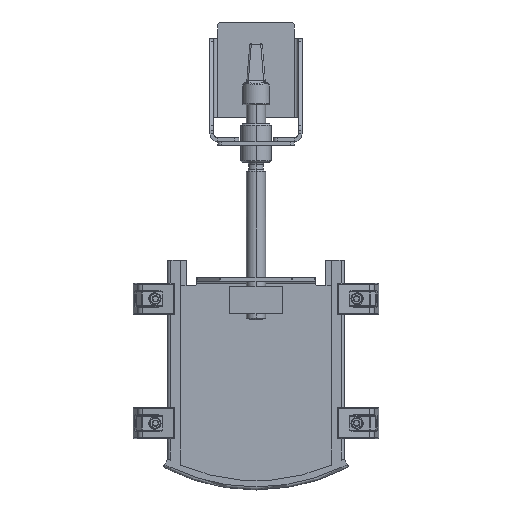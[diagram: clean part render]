
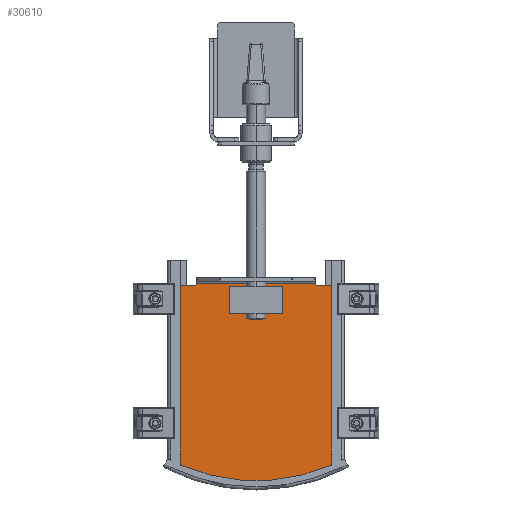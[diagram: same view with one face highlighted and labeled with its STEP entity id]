
A CAD part, top view. The second image highlights one B-rep face of the part: STEP entity #30610.
In plain terms, the highlighted planar face has unit normal (0, 0, 1).
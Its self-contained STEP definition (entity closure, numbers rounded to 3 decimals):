
#112 = ORIENTED_EDGE ( 'NONE', *, *, #6468, .T. ) ;
#483 = LINE ( 'NONE', #22665, #5878 ) ;
#844 = ORIENTED_EDGE ( 'NONE', *, *, #1501, .F. ) ;
#1001 = EDGE_CURVE ( 'NONE', #2835, #20377, #34820, .T. ) ;
#1099 = EDGE_CURVE ( 'NONE', #11364, #33017, #31900, .T. ) ;
#1501 = EDGE_CURVE ( 'NONE', #12025, #28074, #19289, .T. ) ;
#1896 = LINE ( 'NONE', #15713, #4245 ) ;
#2351 = LINE ( 'NONE', #34904, #7532 ) ;
#2835 = VERTEX_POINT ( 'NONE', #8739 ) ;
#2904 = AXIS2_PLACEMENT_3D ( 'NONE', #22931, #33643, #14575 ) ;
#4225 = ORIENTED_EDGE ( 'NONE', *, *, #22428, .T. ) ;
#4245 = VECTOR ( 'NONE', #24079, 1000. ) ;
#4362 = DIRECTION ( 'NONE',  ( 0., -1., 0. ) ) ;
#4998 = DIRECTION ( 'NONE',  ( 0., 1., 0. ) ) ;
#5878 = VECTOR ( 'NONE', #5925, 1000. ) ;
#5925 = DIRECTION ( 'NONE',  ( 0., -1., 0. ) ) ;
#6468 = EDGE_CURVE ( 'NONE', #15090, #2835, #34964, .T. ) ;
#7322 = VECTOR ( 'NONE', #22098, 1000. ) ;
#7354 = LINE ( 'NONE', #29538, #23577 ) ;
#7532 = VECTOR ( 'NONE', #4362, 1000. ) ;
#7668 = EDGE_LOOP ( 'NONE', ( #33738, #9750, #26670, #112, #35391, #33947, #22231, #4225 ) ) ;
#8142 = ORIENTED_EDGE ( 'NONE', *, *, #26661, .F. ) ;
#8687 = CARTESIAN_POINT ( 'NONE',  ( 79., 257., 33. ) ) ;
#8737 = EDGE_CURVE ( 'NONE', #33883, #11685, #23222, .T. ) ;
#8739 = CARTESIAN_POINT ( 'NONE',  ( 79., 255., 33. ) ) ;
#9750 = ORIENTED_EDGE ( 'NONE', *, *, #1099, .T. ) ;
#9753 = CARTESIAN_POINT ( 'NONE',  ( 0., 245., 33. ) ) ;
#10950 = CARTESIAN_POINT ( 'NONE',  ( -34., 217.5, 33. ) ) ;
#11364 = VERTEX_POINT ( 'NONE', #29894 ) ;
#11415 = EDGE_CURVE ( 'NONE', #33151, #12025, #7354, .T. ) ;
#11450 = CARTESIAN_POINT ( 'NONE',  ( -98.172, 255., 33. ) ) ;
#11461 = FACE_BOUND ( 'NONE', #29369, .T. ) ;
#11685 = VERTEX_POINT ( 'NONE', #30565 ) ;
#11889 = CARTESIAN_POINT ( 'NONE',  ( -98., 255., 33. ) ) ;
#11965 = CARTESIAN_POINT ( 'NONE',  ( 98., 255., 33. ) ) ;
#12025 = VERTEX_POINT ( 'NONE', #20499 ) ;
#12131 = DIRECTION ( 'NONE',  ( 0., 0., -1. ) ) ;
#12169 = CARTESIAN_POINT ( 'NONE',  ( -98., 25.856, 33. ) ) ;
#12427 = CARTESIAN_POINT ( 'NONE',  ( 98.172, 255., 33. ) ) ;
#13923 = VERTEX_POINT ( 'NONE', #10950 ) ;
#14206 = DIRECTION ( 'NONE',  ( -1., 0., 0. ) ) ;
#14366 = ORIENTED_EDGE ( 'NONE', *, *, #23791, .F. ) ;
#14575 = DIRECTION ( 'NONE',  ( 1., 0., 0. ) ) ;
#15090 = VERTEX_POINT ( 'NONE', #11965 ) ;
#15713 = CARTESIAN_POINT ( 'NONE',  ( -105., 257., 33. ) ) ;
#16646 = CARTESIAN_POINT ( 'NONE',  ( -34., 217.5, 33. ) ) ;
#17817 = DIRECTION ( 'NONE',  ( 1., 0., 0. ) ) ;
#18654 = EDGE_CURVE ( 'NONE', #15090, #33017, #2351, .T. ) ;
#18932 = VECTOR ( 'NONE', #26614, 1000. ) ;
#19289 = LINE ( 'NONE', #33618, #22044 ) ;
#20181 = DIRECTION ( 'NONE',  ( 0., 0., 1. ) ) ;
#20351 = LINE ( 'NONE', #12169, #32237 ) ;
#20377 = VERTEX_POINT ( 'NONE', #27422 ) ;
#20499 = CARTESIAN_POINT ( 'NONE',  ( 34., 252.5, 33. ) ) ;
#20529 = DIRECTION ( 'NONE',  ( 0., 1., 0. ) ) ;
#22044 = VECTOR ( 'NONE', #24945, 1000. ) ;
#22098 = DIRECTION ( 'NONE',  ( 1., 0., 0. ) ) ;
#22231 = ORIENTED_EDGE ( 'NONE', *, *, #8737, .T. ) ;
#22428 = EDGE_CURVE ( 'NONE', #11685, #27888, #25316, .T. ) ;
#22572 = PLANE ( 'NONE',  #35393 ) ;
#22665 = CARTESIAN_POINT ( 'NONE',  ( -34., 252.5, 33. ) ) ;
#22774 = CARTESIAN_POINT ( 'NONE',  ( -34., 252.5, 33. ) ) ;
#22931 = CARTESIAN_POINT ( 'NONE',  ( -79., 257., 33. ) ) ;
#23222 = CIRCLE ( 'NONE', #2904, 2. ) ;
#23577 = VECTOR ( 'NONE', #4998, 1000. ) ;
#23773 = DIRECTION ( 'NONE',  ( 0., 0., 1. ) ) ;
#23791 = EDGE_CURVE ( 'NONE', #28074, #13923, #483, .T. ) ;
#23946 = DIRECTION ( 'NONE',  ( 1., 0., 0. ) ) ;
#24079 = DIRECTION ( 'NONE',  ( 1., 0., 0. ) ) ;
#24945 = DIRECTION ( 'NONE',  ( -1., 0., 0. ) ) ;
#24958 = FACE_OUTER_BOUND ( 'NONE', #7668, .T. ) ;
#25316 = LINE ( 'NONE', #11450, #32617 ) ;
#26264 = EDGE_CURVE ( 'NONE', #11364, #27888, #20351, .T. ) ;
#26614 = DIRECTION ( 'NONE',  ( -1., 0., 0. ) ) ;
#26661 = EDGE_CURVE ( 'NONE', #13923, #33151, #30117, .T. ) ;
#26670 = ORIENTED_EDGE ( 'NONE', *, *, #18654, .F. ) ;
#27422 = CARTESIAN_POINT ( 'NONE',  ( 77., 257., 33. ) ) ;
#27614 = CARTESIAN_POINT ( 'NONE',  ( 98., 20.454, 33. ) ) ;
#27888 = VERTEX_POINT ( 'NONE', #11889 ) ;
#28074 = VERTEX_POINT ( 'NONE', #22774 ) ;
#28871 = CARTESIAN_POINT ( 'NONE',  ( -77., 257., 33. ) ) ;
#29369 = EDGE_LOOP ( 'NONE', ( #14366, #844, #32163, #8142 ) ) ;
#29538 = CARTESIAN_POINT ( 'NONE',  ( 34., 252.5, 33. ) ) ;
#29573 = AXIS2_PLACEMENT_3D ( 'NONE', #9753, #23773, #23946 ) ;
#29894 = CARTESIAN_POINT ( 'NONE',  ( -98., 20.454, 33. ) ) ;
#30117 = LINE ( 'NONE', #16646, #7322 ) ;
#30565 = CARTESIAN_POINT ( 'NONE',  ( -79., 255., 33. ) ) ;
#30610 = ADVANCED_FACE ( 'NONE', ( #24958, #11461 ), #22572, .T. ) ;
#31618 = CARTESIAN_POINT ( 'NONE',  ( -105., 25.856, 33. ) ) ;
#31900 = CIRCLE ( 'NONE', #29573, 245. ) ;
#32163 = ORIENTED_EDGE ( 'NONE', *, *, #11415, .F. ) ;
#32237 = VECTOR ( 'NONE', #20529, 1000. ) ;
#32472 = CARTESIAN_POINT ( 'NONE',  ( 34., 217.5, 33. ) ) ;
#32617 = VECTOR ( 'NONE', #14206, 1000. ) ;
#33017 = VERTEX_POINT ( 'NONE', #27614 ) ;
#33151 = VERTEX_POINT ( 'NONE', #32472 ) ;
#33402 = EDGE_CURVE ( 'NONE', #33883, #20377, #1896, .T. ) ;
#33618 = CARTESIAN_POINT ( 'NONE',  ( -34., 252.5, 33. ) ) ;
#33643 = DIRECTION ( 'NONE',  ( 0., 0., -1. ) ) ;
#33738 = ORIENTED_EDGE ( 'NONE', *, *, #26264, .F. ) ;
#33883 = VERTEX_POINT ( 'NONE', #28871 ) ;
#33947 = ORIENTED_EDGE ( 'NONE', *, *, #33402, .F. ) ;
#34202 = AXIS2_PLACEMENT_3D ( 'NONE', #8687, #12131, #34300 ) ;
#34300 = DIRECTION ( 'NONE',  ( 1., 0., 0. ) ) ;
#34820 = CIRCLE ( 'NONE', #34202, 2. ) ;
#34904 = CARTESIAN_POINT ( 'NONE',  ( 98., 25.856, 33. ) ) ;
#34964 = LINE ( 'NONE', #12427, #18932 ) ;
#35391 = ORIENTED_EDGE ( 'NONE', *, *, #1001, .T. ) ;
#35393 = AXIS2_PLACEMENT_3D ( 'NONE', #31618, #20181, #17817 ) ;
